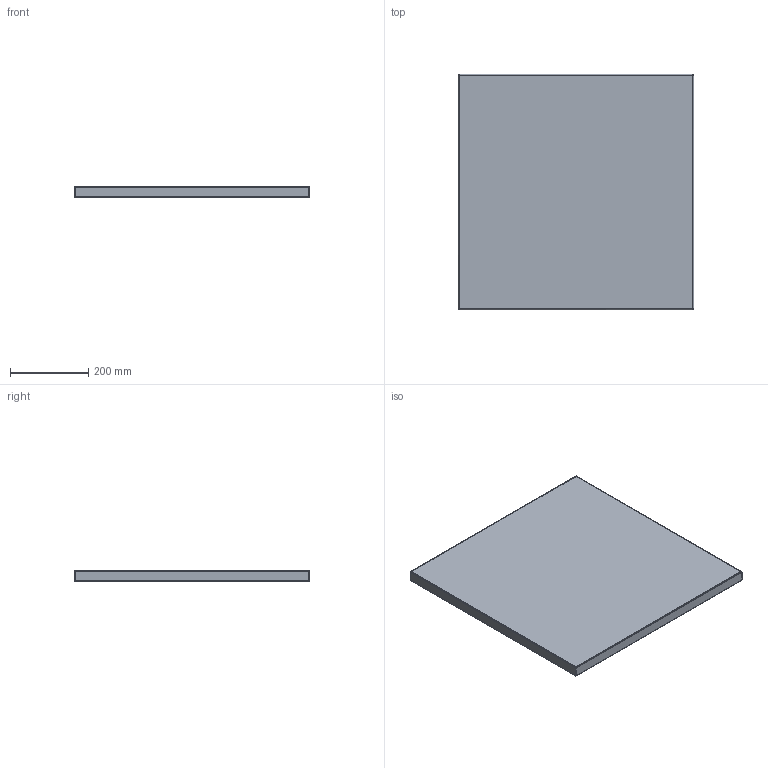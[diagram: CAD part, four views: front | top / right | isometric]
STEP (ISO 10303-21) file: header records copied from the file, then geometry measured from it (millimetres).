
FILE_DESCRIPTION(/* description */ (''),/* implementation_level */ '2;1');
FILE_NAME(/* name */ 'KINOSH~1',/* time_stamp */ '2021-12-15T14:01:21+09:00',/* author */ (''),/* organization */ (''),/* preprocessor_version */ 'ST-DEVELOPER v16.5',/* originating_system */ '',/* authorisation */ '');
FILE_SCHEMA (('AUTOMOTIVE_DESIGN'));
Length unit declared in the file: millimetre
Products named in the file (1): Document
Bounding box: 600 x 600 x 28 mm (x, y, z)
Volume: 10075773.8 mm3; surface area: 783725.4 mm2
Topology: 1 solids, 1 shells, 36 faces, 72 edges, 40 vertices
Faces by surface type: bspline 24, plane 12
Entity records: 946 total; most frequent: CARTESIAN_POINT 464, ORIENTED_EDGE 144, EDGE_CURVE 72, B_SPLINE_CURVE_WITH_KNOTS 44, VERTEX_POINT 40, EDGE_LOOP 38, ADVANCED_FACE 36, FACE_OUTER_BOUND 36
